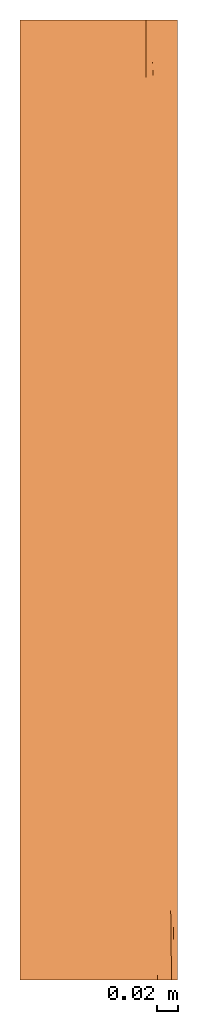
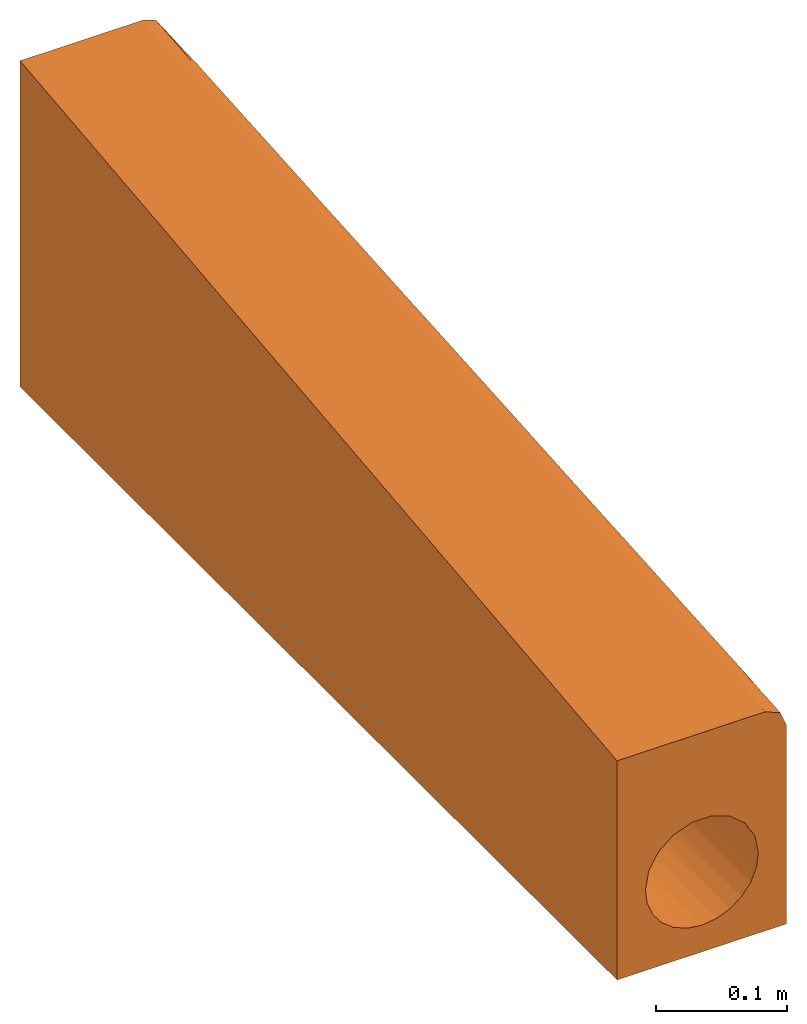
# One storey: 1 proxy.
"""IFC2X3 building model written with IfcOpenShell, lengths in millimetres."""

from ifc_helpers import new_model, entity, si_unit, converted_unit, direction, frame, origin, place, context, subcontext, project, spatial, faceted_brep, source, transform, mapped, material, element, save


model = new_model("IFC2X3")

# Units and contexts
model_context = context("Model", 3, precision=1e-06, world=origin(), true_north=direction((2.0, 6.12303176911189e-17, 1.0)))
context_of_model = context(None, 3, precision=1e-06, world=origin(), true_north=direction((2.0, 6.12303176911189e-17, 1.0)))
body_context = subcontext(model_context, "Body", "Model", "MODEL_VIEW")
ifc_project = project(units=[si_unit("LENGTHUNIT", "METRE", prefix="MILLI"), si_unit("AREAUNIT", "SQUARE_METRE", prefix="MILLI"), si_unit("VOLUMEUNIT", "CUBIC_METRE", prefix="MILLI"), converted_unit("PLANEANGLEUNIT", "DEGREE", entity("IfcRatioMeasure", 0.0174532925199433), si_unit("PLANEANGLEUNIT", "RADIAN"), dimensions=[0, 0, 0, 0, 0, 0, 0]), si_unit("TIMEUNIT", "SECOND")], contexts=[model_context, context_of_model])

# Site, building, storey
site_placement = place(None, origin())
site = spatial("IfcSite", under=ifc_project, at=site_placement, Name="Default", CompositionType="ELEMENT")
building_placement = place(site_placement, origin())
building = spatial("IfcBuilding", under=site, at=building_placement, CompositionType="ELEMENT")
storey_placement = place(building_placement, frame((0.0, 0.0, -300.0)))
storey = spatial("IfcBuildingStorey", under=building, at=storey_placement, Name="T.O. Fnd. Wall", CompositionType="ELEMENT", Elevation=-300.0)

# Proxy
ifc_material = material(Name="ACO Polymer Concrete.")
shared_shape = source(origin(), body_context, "Body", "Brep", [
    faceted_brep([(75.0, 0.0, -180.0), (25.0, 0.0, -148.30127018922), (12.9409522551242, 0.0, -153.296291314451), (35.3553390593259, 0.0, -140.355339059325), (0.0, 0.0, -155.0), (43.3012701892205, 0.0, -130.0), (48.2962913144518, 0.0, -117.940952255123), (50.0, 0.0, -105.0), (75.0, 0.0, 6.0), (-12.9409522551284, 0.0, -153.296291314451), (-75.0, 0.0, -180.0), (-25.0, 0.0, -148.30127018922), (-35.35533905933, 0.0, -140.355339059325), (-43.3012701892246, 0.0, -130.0), (-48.2962913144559, 0.0, -117.940952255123), (-50.0, 0.0, -105.0), (46.9852169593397, 0.0, -87.90060272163), (38.297484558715, 0.0, -72.854974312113), (42.6413507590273, 0.0, -80.3777885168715), (73.6087572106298, 0.0, 9.3587572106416), (66.076271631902, 0.0, 20.8262716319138), (62.7175144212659, 0.0, 22.2175144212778), (56.0, 0.0, 25.0), (8.67375429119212, 0.0, -55.7580870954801), (16.8382395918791, 0.0, -58.7291951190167), (25.0027248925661, 0.0, -61.7003031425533), (-46.9862724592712, 0.0, -87.9035032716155), (-38.3115696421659, 0.0, -72.8717627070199), (-75.0, 0.0, 25.0), (-8.68541109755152, 0.0, -55.7601418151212), (-31.6586032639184, 0.0, -67.2868737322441), (-25.0056368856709, 0.0, -61.7019847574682), (-16.8455239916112, 0.0, -58.7310632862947), (-75.0, 915.0, -180.0), (-25.0, 915.0, -148.30127018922), (-12.9409522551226, 915.0, -153.296291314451), (-35.3553390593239, 915.0, -140.355339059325), (0.0, 915.0, -155.0), (-50.0, 915.0, -105.0), (-48.2962913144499, 915.0, -117.940952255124), (-43.3012701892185, 915.0, -130.0), (-50.0, 915.0, -5.0), (-75.0, 915.0, 125.0), (12.9409522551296, 915.0, -153.296291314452), (75.0, 915.0, -180.0), (25.0, 915.0, -148.30127018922), (35.355339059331, 915.0, -140.355339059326), (43.3012701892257, 915.0, -130.0), (48.2962913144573, 915.0, -117.940952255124), (50.0, 915.0, -105.0), (75.0, 915.0, 25.0), (-46.9862724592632, 915.0, 12.0964967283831), (-38.3115696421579, 915.0, 27.1282372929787), (-8.68541109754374, 915.0, 44.2398581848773), (-16.8455239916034, 915.0, 41.2689367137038), (33.625867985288, 915.0, 125.0), (-25.005636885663, 915.0, 38.2980152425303), (-31.6586032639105, 915.0, 32.7131262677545), (8.67375429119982, 915.0, 44.2419129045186), (51.9784586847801, 915.0, 110.917561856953), (46.9852169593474, 915.0, 12.0993972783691), (42.6413507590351, 915.0, 19.6222114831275), (38.2974845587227, 915.0, 27.1450256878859), (50.0, 915.0, -5.0), (25.0027248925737, 915.0, 38.2996968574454), (16.8382395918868, 915.0, 41.270804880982), (36.5174847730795, 915.0, 124.018428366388), (39.4091015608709, 915.0, 123.036856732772), (53.96029605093, 836.231112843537, 101.885606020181), (55.5618798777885, 772.575548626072, 94.5866042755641), (50.0, 457.500000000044, -105.0), (50.0, 228.750011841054, -79.9999987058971), (50.0, 457.500023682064, -54.999997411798), (45.6178951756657, 763.506961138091, -1.08694016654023), (40.5304275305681, 763.475032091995, 7.71931436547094), (45.4922445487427, 457.500000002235, -34.2525739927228), (43.2998563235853, 623.037930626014, -11.9059741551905), (48.4941211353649, 571.875006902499, -30.3213205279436), (12.9353465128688, 769.015520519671, 27.3432050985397), (13.9123309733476, 138.301095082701, -41.8596429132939), (-0.00591622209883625, 207.683537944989, -32.3023459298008), (8.58844950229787, 254.601189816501, -27.9178705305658), (21.0942322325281, 457.499999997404, -9.66752415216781), (17.0983580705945, 291.968960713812, -26.1052288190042), (10.7993394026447, 482.495498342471, -3.44843724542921), (43.2998563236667, 291.962069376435, -48.0891283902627), (32.137763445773, 207.695078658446, -43.9975053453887), (39.7952155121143, 476.335109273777, -22.67039619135), (50.0, 686.249988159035, -30.0000012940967), (48.8157786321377, 758.539304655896, -11.2819625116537), (32.1377634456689, 707.304921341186, 10.604663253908), (25.8175848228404, 615.239670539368, 5.0581395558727), (22.5191419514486, 757.327103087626, 22.4097663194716), (48.4796780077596, 345.494929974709, -55.0049453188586), (48.7969657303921, 158.134401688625, -76.8154356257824), (32.1377639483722, 457.499999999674, -16.6964214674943), (23.2584470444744, 163.972437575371, -42.8184187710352), (26.1823439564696, 322.161553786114, -27.194316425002), (-26.1387724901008, 318.908727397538, -27.5230658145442), (-22.6236873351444, 467.847987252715, -9.28018624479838), (-17.1054945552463, 291.971556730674, -26.1075427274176), (-32.1474449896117, 207.650233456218, -44.0105316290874), (-40.531406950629, 151.657747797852, -59.1473184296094), (-45.6188230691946, 151.466508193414, -67.9786751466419), (-43.306107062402, 292.006206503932, -48.0951329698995), (-48.4806878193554, 569.391777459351, -30.5393461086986), (-50.0, 686.250022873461, -29.9999975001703), (-48.796268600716, 756.781761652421, -11.3863748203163), (-48.815982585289, 156.464868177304, -77.0833677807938), (-48.4958182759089, 343.125028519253, -55.3280779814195), (-45.586565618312, 764.128589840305, -0.949325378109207), (-39.8007045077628, 438.609881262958, -26.8005892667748), (-43.3061070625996, 622.993793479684, -11.9216261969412), (-32.1474449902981, 707.349766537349, 10.6014391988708), (-13.7188285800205, 139.904258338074, -41.6288008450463), (-23.0848261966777, 162.439804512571, -42.8951185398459), (-21.1360270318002, 769.014231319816, 24.3582755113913), (45.5871071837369, 150.924362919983, -67.9673828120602), (40.4820859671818, 152.149541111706, -59.0254133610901), (-17.1054945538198, 623.028443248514, 10.0735377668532), (-0.00591622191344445, 707.316462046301, 22.3023452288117), (-11.6387006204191, 459.765290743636, -6.12588461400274), (-25.3674677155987, 643.283054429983, 8.39118231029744), (-11.4445770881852, 757.301184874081, 26.4377533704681), (-50.0, 457.500045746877, -54.999995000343), (-50.0, 228.750022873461, -79.9999975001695), (-45.494523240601, 457.499999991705, -34.2575711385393), (-0.00591442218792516, 457.499999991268, -5.00000035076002), (8.26677237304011, 643.279547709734, 14.6156452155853), (-32.1474482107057, 457.499999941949, -16.7045489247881), (-40.4806998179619, 762.687927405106, 7.70200538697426), (17.098358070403, 623.031039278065, 10.0764191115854), (-46.1939766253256, 457.500000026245, -124.134171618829), (-6.52630960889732, 251.977201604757, -154.572243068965), (-19.1341716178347, 457.500000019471, -151.193976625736), (-39.6676670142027, 567.667295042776, -135.4380714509), (-39.6676670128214, 251.977201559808, -135.438071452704), (-30.4380714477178, 347.332704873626, -144.667667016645), (-30.4380714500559, 663.022798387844, -144.66766701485), (39.667667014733, 663.022798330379, -135.438071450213), (30.4380714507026, 567.667295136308, -144.667667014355), (39.667667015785, 347.332704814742, -135.438071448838), (30.4380714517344, 251.977201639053, -144.667667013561), (-6.52630961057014, 567.667295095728, -154.572243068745), (-49.0392640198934, 607.194863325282, -114.754516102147), (-49.1517479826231, 293.447228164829, -114.170914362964), (-50.0, 457.500000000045, -105.0), (6.52630961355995, 347.332704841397, -154.572243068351), (6.52630961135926, 663.022798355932, -154.572243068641), (19.1341716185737, 457.500000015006, -151.193976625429), (46.1939766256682, 457.50000001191, -124.134171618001), (49.15174798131, 621.552771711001, -114.17091437), (49.0392640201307, 307.805136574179, -114.754516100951), (39.3136904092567, 851.954103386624, 117.650652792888), (35.5519722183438, 836.231117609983, 116.391378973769), (53.7051876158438, 577.896903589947, 83.9763750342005), (51.9868029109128, 528.712216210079, 80.5399555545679), (55.8919217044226, 504.846449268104, 75.6584061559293), (69.3714328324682, 196.922211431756, 32.7387201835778), (71.0363252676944, 157.537774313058, 24.063911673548), (69.0544879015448, 236.306661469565, 33.0958675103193), (51.6005226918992, 334.389121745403, 61.1631825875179), (48.2955827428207, 315.075542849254, 59.434485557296), (54.2259282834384, 279.527004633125, 54.8582385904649), (52.1477913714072, 157.537771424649, 42.2172427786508), (58.4562165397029, 118.153326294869, 37.1428848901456), (56.0594683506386, 198.746233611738, 46.0695854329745), (42.5456747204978, 718.07777692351, 103.026933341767), (44.4375025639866, 631.773524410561, 93.6415223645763), (47.4769170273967, 678.693330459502, 97.3598514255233), (71.0625577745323, 131.070014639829, 25.3358478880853), (48.5722364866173, 493.106104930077, 78.3136767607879), (48.9680593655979, 437.631045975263, 72.4678641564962), (54.4788644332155, 437.880797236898, 70.4648661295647), (63.7942947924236, 382.946414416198, 55.7864672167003), (61.3973267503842, 434.282961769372, 63.5358715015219), (61.8445796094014, 383.538101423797, 59.1773856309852), (70.1519770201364, 104.602259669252, 26.4075276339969), (66.8768725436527, 138.553022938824, 33.6537675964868), (68.6237274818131, 67.9112914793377, 25.9298518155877), (48.9941924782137, 602.838459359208, 89.2237288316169), (46.2464621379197, 564.318332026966, 86.2347978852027), (41.3302854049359, 599.924450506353, 90.5655137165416), (43.0716097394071, 528.712223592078, 82.7827566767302), (49.6726180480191, 844.153177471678, 110.721951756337), (47.8232528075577, 796.164648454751, 108.272691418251), (51.6372153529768, 761.445099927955, 101.723559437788), (58.9031942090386, 590.766635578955, 78.0566553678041), (57.9270757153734, 642.727135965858, 83.0128000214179), (55.8006398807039, 612.144560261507, 84.7596789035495), (60.9961663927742, 511.997750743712, 69.0253403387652), (63.108975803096, 472.613322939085, 60.191735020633), (61.1271384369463, 551.382210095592, 69.2236908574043), (62.8758761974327, 444.67141951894, 61.04390533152), (45.5483335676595, 744.048049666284, 104.657382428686), (40.6537213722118, 783.860698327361, 110.277781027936), (58.5688128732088, 444.97565427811, 67.9827649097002), (59.2004321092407, 386.287762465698, 62.3440781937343), (51.9247858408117, 650.730848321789, 91.9399561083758), (54.1258671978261, 747.838891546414, 97.1879461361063), (53.1741409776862, 804.403306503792, 102.604145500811), (51.7298101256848, 863.835755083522, 109.131473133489), (48.5853969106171, 915.0, 115.995637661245), (43.6317866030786, 810.259174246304, 112.027157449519), (62.83927672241, 305.669686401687, 51.827812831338), (57.916128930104, 320.928556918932, 57.3505029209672), (63.4076503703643, 59.6140739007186, 29.3157390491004), (59.1138219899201, 52.0217054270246, 30.1714878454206), (66.7442572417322, 236.30665325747, 41.0808091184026), (67.8033852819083, 258.494472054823, 39.6215172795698), (68.4479407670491, 170.454456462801, 33.7428309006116), (65.6137695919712, 307.781969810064, 47.637754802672), (64.5875988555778, 204.6191010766, 41.5947634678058), (70.826271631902, 0.0, 16.0762716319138), (71.3647578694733, 48.8781026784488, 20.6257071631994), (60.6854418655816, 172.618480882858, 41.6369948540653), (64.0329625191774, 115.087417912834, 34.1635738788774), (54.073895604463, 78.768889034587, 33.6086217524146), (49.5167881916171, 725.184035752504, 100.538088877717), (59.3587572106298, 0.0, 23.6087572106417), (59.7831840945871, 236.306652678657, 48.2268955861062), (50.2216871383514, 236.306653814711, 50.825863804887), (46.5542584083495, 386.287769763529, 67.2172425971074), (51.996399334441, 386.287765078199, 66.4146081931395), (64.3035601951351, 252.963742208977, 45.8691747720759), (55.8899597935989, 379.120859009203, 64.0584874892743), (65.0908131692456, 393.844435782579, 51.1597791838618), (57.0181443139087, 551.59498092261, 78.4622823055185), (59.1082736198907, 491.50123607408, 71.1006431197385), (67.0726505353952, 315.075548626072, 42.1278233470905), (73.018162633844, 78.7688871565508, 15.0319558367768), (72.7157585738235, 63.0827138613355, 18.045314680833), (69.4350288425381, 0.0, 19.4350288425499), (59.1453010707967, 630.151097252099, 78.2556466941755), (57.3535904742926, 701.363322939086, 86.4211254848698), (53.9745761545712, 678.753477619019, 92.2943511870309), (37.4780766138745, 757.46222857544, 107.78275722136), (39.4041810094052, 678.693339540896, 99.1741354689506), (44.8129340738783, 457.499996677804, 74.9999996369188), (55.9993924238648, 689.707382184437, 89.9599060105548), (50.6466565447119, 915.0, 112.910744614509), (44.9500605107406, 858.083350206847, 115.969047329), (42.0695999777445, 860.516703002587, 117.661180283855), (46.8888660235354, 915.0, 118.534675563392), (45.1923351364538, 915.0, 121.073713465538), (42.3007183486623, 915.0, 122.055285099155), (72.2175144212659, 0.0, 12.7175144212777)], [[[0, 1, 2]], [[1, 0, 3]], [[0, 2, 4]], [[5, 3, 0]], [[6, 5, 0]], [[7, 6, 0, 8]], [[4, 9, 10, 0]], [[10, 9, 11]], [[11, 12, 10]], [[13, 14, 10]], [[12, 13, 10]], [[10, 14, 15]], [[16, 7, 8]], [[8, 17, 18, 16]], [[8, 19, 20, 21]], [[22, 23, 24, 25]], [[8, 22, 25, 17]], [[26, 27, 28]], [[15, 26, 28, 10]], [[29, 23, 22, 28]], [[28, 27, 30, 31]], [[28, 31, 32, 29]], [[33, 34, 35]], [[34, 33, 36]], [[33, 35, 37]], [[38, 39, 33]], [[40, 36, 33]], [[39, 40, 33]], [[41, 38, 33, 42]], [[37, 43, 44, 33]], [[44, 45, 46]], [[45, 44, 43]], [[46, 47, 44]], [[44, 48, 49, 50]], [[47, 48, 44]], [[51, 41, 42]], [[52, 51, 42]], [[53, 54, 42, 55]], [[42, 56, 57, 52]], [[58, 53, 55, 59]], [[50, 60, 61, 62]], [[63, 50, 49]], [[50, 63, 60]], [[62, 64, 50]], [[64, 65, 59, 50]], [[59, 55, 66, 67]], [[0, 10, 33, 44]], [[50, 59, 68, 69]], [[49, 70, 71, 72]], [[73, 74, 61]], [[75, 76, 77]], [[78, 58, 65]], [[79, 80, 81]], [[82, 83, 84]], [[85, 86, 87]], [[88, 77, 89]], [[90, 91, 92]], [[85, 87, 75]], [[76, 74, 73]], [[62, 90, 64]], [[93, 71, 94]], [[92, 78, 65]], [[82, 91, 95]], [[86, 96, 97]], [[93, 77, 72]], [[23, 29, 80]], [[98, 99, 100]], [[101, 27, 102]], [[89, 77, 73]], [[102, 103, 104]], [[96, 24, 79]], [[105, 106, 107]], [[108, 109, 103]], [[52, 110, 51]], [[111, 112, 113]], [[86, 17, 25]], [[100, 80, 114]], [[114, 115, 100]], [[56, 116, 113]], [[103, 102, 27]], [[117, 18, 118]], [[119, 120, 121]], [[58, 120, 53]], [[99, 122, 119]], [[56, 54, 116]], [[99, 119, 121]], [[123, 116, 54]], [[105, 109, 124]], [[125, 109, 108]], [[112, 111, 126]], [[126, 104, 109]], [[72, 77, 88]], [[89, 60, 63]], [[85, 75, 93]], [[117, 94, 16]], [[124, 109, 125]], [[71, 7, 94]], [[93, 72, 71]], [[108, 26, 15]], [[112, 126, 105]], [[110, 107, 51]], [[64, 92, 65]], [[106, 41, 107]], [[105, 124, 106]], [[95, 90, 87, 86]], [[125, 108, 15]], [[97, 82, 95]], [[79, 23, 80]], [[121, 127, 80]], [[53, 123, 54]], [[128, 84, 127]], [[100, 115, 98]], [[111, 129, 101]], [[110, 52, 130]], [[119, 122, 116]], [[88, 89, 63]], [[60, 89, 73]], [[74, 62, 61]], [[76, 73, 77]], [[74, 90, 62]], [[74, 76, 90]], [[61, 60, 73]], [[85, 93, 117]], [[16, 94, 7]], [[94, 117, 93]], [[118, 85, 117]], [[118, 86, 85]], [[118, 17, 86]], [[17, 118, 18]], [[117, 16, 18]], [[26, 108, 103]], [[26, 103, 27]], [[104, 103, 109]], [[30, 115, 31]], [[102, 104, 101]], [[112, 105, 110]], [[51, 107, 41]], [[107, 110, 105]], [[130, 112, 110]], [[130, 113, 112]], [[113, 130, 52]], [[93, 75, 77]], [[76, 75, 87]], [[76, 87, 90]], [[105, 126, 109]], [[104, 126, 111]], [[104, 111, 101]], [[113, 129, 111]], [[78, 128, 120]], [[58, 78, 120]], [[92, 131, 78]], [[131, 92, 91]], [[92, 64, 90]], [[131, 91, 82]], [[91, 90, 95]], [[131, 82, 84]], [[97, 83, 82]], [[78, 131, 128]], [[81, 80, 127]], [[120, 128, 127]], [[128, 131, 84]], [[83, 97, 96]], [[86, 97, 95]], [[83, 96, 79]], [[25, 96, 86]], [[81, 83, 79]], [[96, 25, 24]], [[81, 84, 83]], [[84, 81, 127]], [[24, 23, 79]], [[116, 123, 119]], [[113, 52, 57, 56]], [[113, 116, 122]], [[123, 120, 119]], [[123, 53, 120]], [[122, 129, 113]], [[129, 122, 99]], [[101, 129, 98]], [[120, 127, 121]], [[121, 100, 99]], [[100, 121, 80]], [[99, 98, 129]], [[101, 115, 30]], [[98, 115, 101]], [[114, 32, 115]], [[30, 27, 101]], [[29, 114, 80]], [[31, 115, 32]], [[114, 29, 32]], [[38, 41, 106, 124]], [[40, 39, 132]], [[9, 133, 134]], [[135, 136, 137, 138]], [[132, 135, 40]], [[35, 34, 134]], [[139, 46, 140]], [[3, 141, 142]], [[137, 134, 138]], [[13, 136, 132]], [[35, 134, 143]], [[144, 132, 39]], [[145, 146, 15]], [[38, 144, 39]], [[135, 36, 40]], [[12, 11, 137]], [[132, 14, 13]], [[4, 2, 147]], [[136, 135, 132]], [[134, 137, 11]], [[140, 46, 45]], [[134, 11, 9]], [[143, 37, 35]], [[133, 143, 134]], [[143, 133, 147, 148]], [[45, 43, 149]], [[148, 37, 143]], [[4, 147, 133]], [[149, 140, 45]], [[48, 47, 150]], [[139, 47, 46]], [[138, 36, 135]], [[141, 150, 139]], [[3, 142, 1]], [[151, 70, 49]], [[147, 2, 149]], [[149, 2, 1]], [[138, 34, 36]], [[3, 5, 141]], [[145, 144, 146]], [[142, 140, 149]], [[4, 133, 9]], [[141, 5, 150]], [[6, 150, 5]], [[148, 43, 37]], [[6, 152, 150]], [[12, 136, 13]], [[12, 137, 136]], [[148, 147, 149]], [[151, 152, 70]], [[6, 7, 152]], [[34, 138, 134]], [[1, 142, 149]], [[140, 142, 141, 139]], [[43, 148, 149]], [[47, 139, 150]], [[14, 132, 145]], [[146, 144, 38]], [[144, 145, 132]], [[14, 145, 15]], [[48, 150, 151]], [[70, 152, 7]], [[152, 151, 150]], [[48, 151, 49]], [[8, 0, 44, 50]], [[153, 66, 154]], [[155, 156, 157]], [[158, 159, 160]], [[161, 162, 163]], [[164, 165, 166]], [[167, 168, 169]], [[170, 159, 158]], [[171, 172, 173]], [[174, 175, 176]], [[177, 178, 179]], [[155, 180, 156]], [[181, 182, 183]], [[184, 185, 186]], [[187, 188, 189]], [[190, 191, 192]], [[193, 175, 174]], [[194, 195, 167]], [[176, 196, 197]], [[180, 198, 169]], [[199, 69, 200]], [[184, 201, 202]], [[185, 203, 194]], [[204, 197, 205]], [[206, 207, 21]], [[208, 158, 209]], [[170, 158, 210]], [[204, 208, 211]], [[212, 178, 210]], [[177, 210, 178]], [[179, 213, 214]], [[215, 165, 216]], [[217, 165, 164]], [[218, 169, 198]], [[154, 195, 153]], [[216, 165, 206]], [[206, 179, 216]], [[207, 22, 219, 21]], [[166, 215, 220]], [[163, 166, 220]], [[163, 221, 166]], [[220, 205, 163]], [[172, 222, 223]], [[223, 161, 205]], [[197, 196, 173]], [[212, 224, 220]], [[197, 173, 225]], [[224, 205, 220]], [[211, 174, 176]], [[174, 226, 193]], [[227, 190, 187]], [[190, 193, 191]], [[157, 228, 227]], [[221, 163, 162]], [[221, 164, 166]], [[229, 174, 211]], [[209, 158, 160]], [[211, 209, 229]], [[210, 158, 208]], [[210, 208, 212]], [[170, 210, 177]], [[224, 212, 208]], [[212, 220, 215]], [[215, 178, 212]], [[20, 179, 206]], [[216, 179, 178]], [[179, 214, 177]], [[19, 230, 231]], [[214, 231, 177]], [[170, 177, 231]], [[231, 230, 170]], [[230, 159, 170]], [[19, 8, 230]], [[20, 206, 21]], [[232, 179, 20]], [[207, 165, 217]], [[165, 207, 206]], [[22, 207, 217]], [[229, 209, 160]], [[208, 209, 211]], [[188, 187, 233]], [[233, 187, 192]], [[187, 189, 227]], [[233, 234, 188]], [[235, 198, 189]], [[187, 190, 192]], [[228, 175, 193]], [[228, 193, 190]], [[196, 175, 228]], [[226, 174, 229]], [[226, 191, 193]], [[175, 196, 176]], [[228, 157, 196]], [[173, 223, 225]], [[157, 173, 196]], [[181, 156, 180]], [[155, 227, 189]], [[173, 157, 156]], [[198, 155, 189]], [[155, 198, 180]], [[167, 236, 237]], [[238, 171, 183]], [[180, 168, 181]], [[172, 171, 238]], [[173, 156, 171]], [[235, 189, 239]], [[198, 235, 218]], [[185, 218, 186]], [[169, 194, 167]], [[183, 171, 181]], [[181, 168, 182]], [[156, 181, 171]], [[167, 237, 168]], [[169, 218, 194]], [[168, 180, 169]], [[237, 182, 168]], [[240, 202, 201]], [[203, 185, 241]], [[68, 59, 240]], [[153, 203, 242]], [[243, 244, 184, 202]], [[68, 200, 69]], [[184, 186, 200]], [[199, 200, 186]], [[184, 244, 241]], [[184, 241, 185]], [[167, 195, 236]], [[241, 244, 245]], [[197, 204, 176]], [[211, 176, 204]], [[199, 235, 239]], [[218, 235, 186]], [[185, 194, 218]], [[195, 194, 203]], [[153, 195, 203]], [[154, 236, 195]], [[242, 203, 241]], [[66, 55, 154]], [[157, 227, 155]], [[227, 228, 190]], [[201, 184, 200]], [[240, 201, 68]], [[68, 201, 200]], [[165, 215, 166]], [[215, 216, 178]], [[205, 161, 163]], [[161, 222, 162]], [[222, 161, 223]], [[208, 204, 224]], [[224, 204, 205]], [[231, 246, 19]], [[231, 214, 246]], [[213, 179, 232]], [[213, 246, 214]], [[188, 234, 239]], [[189, 188, 239]], [[223, 205, 225]], [[199, 234, 69]], [[197, 225, 205]], [[222, 172, 238]], [[173, 172, 223]], [[235, 199, 186]], [[199, 239, 234]], [[245, 242, 241]], [[242, 245, 67]], [[67, 153, 242]], [[153, 67, 66]], [[28, 22, 217, 164]], [[42, 28, 55]], [[28, 42, 33, 10]], [[8, 21, 219, 22]], [[20, 19, 246, 213]], [[20, 213, 232]], [[42, 54, 56]], [[59, 65, 58]], [[59, 67, 245]], [[245, 244, 243, 202]], [[245, 202, 240, 59]], [[50, 69, 234, 233]], [[50, 233, 192, 191]], [[50, 191, 226, 229]], [[50, 229, 160, 159]], [[50, 159, 230, 8]], [[49, 72, 88, 63]], [[71, 70, 7]], [[38, 124, 125]], [[125, 15, 146, 38]], [[28, 164, 221, 162]], [[28, 162, 222, 238]], [[28, 238, 183, 182]], [[28, 182, 237, 236]], [[28, 236, 154, 55]]]),
])
proxy_placement = place(storey_placement, frame((-4264.21056397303, -6896.5502196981, 300.0)))
element("IfcBuildingElementProxy", 1, at=proxy_placement, inside=storey, material=ifc_material, Name="Civil-Drainage-Channel-ACO-KerbDrain-HB305 - PART 1:7967 - RH drop kerb - 915mm LG:7967 - RH drop kerb - 915mm LG", ObjectType="7967 - RH drop kerb - 915mm LG", CompositionType="ELEMENT", context=body_context, shape_type="MappedRepresentation", body=[
    mapped(shared_shape, transform((0.0, 0.0, 0.0), scale=1.0)),
])

save(model, "model.ifc")
